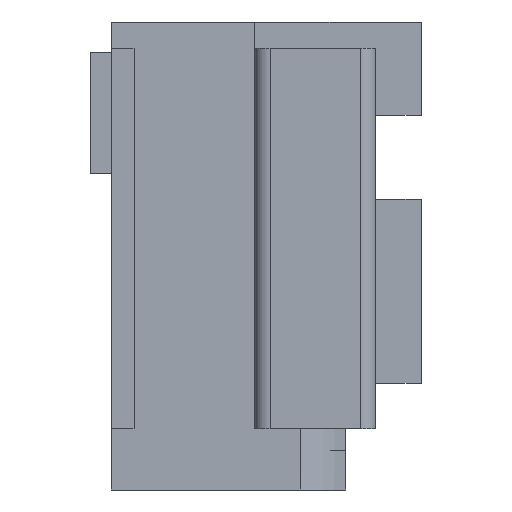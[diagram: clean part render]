
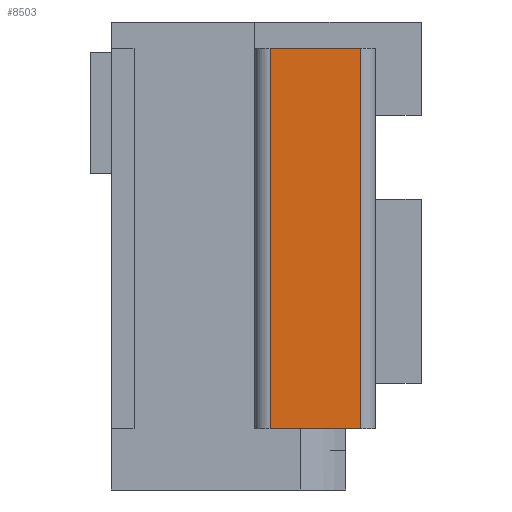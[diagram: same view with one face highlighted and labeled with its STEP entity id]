
A CAD part, left-side view. The second image highlights one B-rep face of the part: STEP entity #8503.
In plain terms, the highlighted planar face has unit normal (-1, 0, 0).
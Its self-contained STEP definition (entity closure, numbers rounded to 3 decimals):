
#4212 = PLANE('',#4213);
#4213 = AXIS2_PLACEMENT_3D('',#4214,#4215,#4216);
#4214 = CARTESIAN_POINT('',(-91.,98.29,175.3));
#4215 = DIRECTION('',(-0.,-0.,1.));
#4216 = DIRECTION('',(1.,0.,0.));
#7016 = VERTEX_POINT('',#7017);
#7017 = CARTESIAN_POINT('',(-107.5,100.29,175.3));
#7034 = CYLINDRICAL_SURFACE('',#7035,2.);
#7035 = AXIS2_PLACEMENT_3D('',#7036,#7037,#7038);
#7036 = CARTESIAN_POINT('',(-105.5,100.29,175.3));
#7037 = DIRECTION('',(-0.,-0.,1.));
#7038 = DIRECTION('',(-1.,-0.,-0.));
#7046 = EDGE_CURVE('',#7016,#7047,#7049,.T.);
#7047 = VERTEX_POINT('',#7048);
#7048 = CARTESIAN_POINT('',(-107.5,112.29,175.3));
#7049 = SURFACE_CURVE('',#7050,(#7054,#7061),.PCURVE_S1.);
#7050 = LINE('',#7051,#7052);
#7051 = CARTESIAN_POINT('',(-107.5,98.29,175.3));
#7052 = VECTOR('',#7053,1.);
#7053 = DIRECTION('',(-0.,1.,-0.));
#7054 = PCURVE('',#4212,#7055);
#7055 = DEFINITIONAL_REPRESENTATION('',(#7056),#7060);
#7056 = LINE('',#7057,#7058);
#7057 = CARTESIAN_POINT('',(-16.5,0.));
#7058 = VECTOR('',#7059,1.);
#7059 = DIRECTION('',(-0.,1.));
#7060 = ( GEOMETRIC_REPRESENTATION_CONTEXT(2) 
PARAMETRIC_REPRESENTATION_CONTEXT() REPRESENTATION_CONTEXT('2D SPACE',''
  ) );
#7061 = PCURVE('',#7062,#7067);
#7062 = PLANE('',#7063);
#7063 = AXIS2_PLACEMENT_3D('',#7064,#7065,#7066);
#7064 = CARTESIAN_POINT('',(-107.5,98.29,175.3));
#7065 = DIRECTION('',(-1.,-0.,-0.));
#7066 = DIRECTION('',(0.,0.,-1.));
#7067 = DEFINITIONAL_REPRESENTATION('',(#7068),#7072);
#7068 = LINE('',#7069,#7070);
#7069 = CARTESIAN_POINT('',(-0.,-0.));
#7070 = VECTOR('',#7071,1.);
#7071 = DIRECTION('',(-0.,-1.));
#7072 = ( GEOMETRIC_REPRESENTATION_CONTEXT(2) 
PARAMETRIC_REPRESENTATION_CONTEXT() REPRESENTATION_CONTEXT('2D SPACE',''
  ) );
#7095 = CYLINDRICAL_SURFACE('',#7096,2.);
#7096 = AXIS2_PLACEMENT_3D('',#7097,#7098,#7099);
#7097 = CARTESIAN_POINT('',(-105.5,112.29,175.3));
#7098 = DIRECTION('',(-0.,-0.,1.));
#7099 = DIRECTION('',(-1.,-0.,-0.));
#7464 = PLANE('',#7465);
#7465 = AXIS2_PLACEMENT_3D('',#7466,#7467,#7468);
#7466 = CARTESIAN_POINT('',(-91.,98.29,225.619));
#7467 = DIRECTION('',(-0.,-0.,1.));
#7468 = DIRECTION('',(1.,0.,0.));
#8399 = VERTEX_POINT('',#8400);
#8400 = CARTESIAN_POINT('',(-107.5,100.29,225.619));
#8422 = EDGE_CURVE('',#7016,#8399,#8423,.T.);
#8423 = SURFACE_CURVE('',#8424,(#8428,#8435),.PCURVE_S1.);
#8424 = LINE('',#8425,#8426);
#8425 = CARTESIAN_POINT('',(-107.5,100.29,175.3));
#8426 = VECTOR('',#8427,1.);
#8427 = DIRECTION('',(-0.,-0.,1.));
#8428 = PCURVE('',#7034,#8429);
#8429 = DEFINITIONAL_REPRESENTATION('',(#8430),#8434);
#8430 = LINE('',#8431,#8432);
#8431 = CARTESIAN_POINT('',(0.,0.));
#8432 = VECTOR('',#8433,1.);
#8433 = DIRECTION('',(0.,1.));
#8434 = ( GEOMETRIC_REPRESENTATION_CONTEXT(2) 
PARAMETRIC_REPRESENTATION_CONTEXT() REPRESENTATION_CONTEXT('2D SPACE',''
  ) );
#8435 = PCURVE('',#7062,#8436);
#8436 = DEFINITIONAL_REPRESENTATION('',(#8437),#8441);
#8437 = LINE('',#8438,#8439);
#8438 = CARTESIAN_POINT('',(-0.,-2.));
#8439 = VECTOR('',#8440,1.);
#8440 = DIRECTION('',(-1.,-0.));
#8441 = ( GEOMETRIC_REPRESENTATION_CONTEXT(2) 
PARAMETRIC_REPRESENTATION_CONTEXT() REPRESENTATION_CONTEXT('2D SPACE',''
  ) );
#8456 = VERTEX_POINT('',#8457);
#8457 = CARTESIAN_POINT('',(-107.5,112.29,225.619));
#8483 = EDGE_CURVE('',#7047,#8456,#8484,.T.);
#8484 = SURFACE_CURVE('',#8485,(#8489,#8496),.PCURVE_S1.);
#8485 = LINE('',#8486,#8487);
#8486 = CARTESIAN_POINT('',(-107.5,112.29,175.3));
#8487 = VECTOR('',#8488,1.);
#8488 = DIRECTION('',(-0.,-0.,1.));
#8489 = PCURVE('',#7095,#8490);
#8490 = DEFINITIONAL_REPRESENTATION('',(#8491),#8495);
#8491 = LINE('',#8492,#8493);
#8492 = CARTESIAN_POINT('',(-0.,0.));
#8493 = VECTOR('',#8494,1.);
#8494 = DIRECTION('',(-0.,1.));
#8495 = ( GEOMETRIC_REPRESENTATION_CONTEXT(2) 
PARAMETRIC_REPRESENTATION_CONTEXT() REPRESENTATION_CONTEXT('2D SPACE',''
  ) );
#8496 = PCURVE('',#7062,#8497);
#8497 = DEFINITIONAL_REPRESENTATION('',(#8498),#8502);
#8498 = LINE('',#8499,#8500);
#8499 = CARTESIAN_POINT('',(-0.,-14.));
#8500 = VECTOR('',#8501,1.);
#8501 = DIRECTION('',(-1.,-0.));
#8502 = ( GEOMETRIC_REPRESENTATION_CONTEXT(2) 
PARAMETRIC_REPRESENTATION_CONTEXT() REPRESENTATION_CONTEXT('2D SPACE',''
  ) );
#8503 = ADVANCED_FACE('',(#8504),#7062,.T.);
#8504 = FACE_BOUND('',#8505,.F.);
#8505 = EDGE_LOOP('',(#8506,#8527,#8528,#8529));
#8506 = ORIENTED_EDGE('',*,*,#8507,.F.);
#8507 = EDGE_CURVE('',#8399,#8456,#8508,.T.);
#8508 = SURFACE_CURVE('',#8509,(#8513,#8520),.PCURVE_S1.);
#8509 = LINE('',#8510,#8511);
#8510 = CARTESIAN_POINT('',(-107.5,98.29,225.619));
#8511 = VECTOR('',#8512,1.);
#8512 = DIRECTION('',(-0.,1.,-0.));
#8513 = PCURVE('',#7062,#8514);
#8514 = DEFINITIONAL_REPRESENTATION('',(#8515),#8519);
#8515 = LINE('',#8516,#8517);
#8516 = CARTESIAN_POINT('',(-50.319,-0.));
#8517 = VECTOR('',#8518,1.);
#8518 = DIRECTION('',(-0.,-1.));
#8519 = ( GEOMETRIC_REPRESENTATION_CONTEXT(2) 
PARAMETRIC_REPRESENTATION_CONTEXT() REPRESENTATION_CONTEXT('2D SPACE',''
  ) );
#8520 = PCURVE('',#7464,#8521);
#8521 = DEFINITIONAL_REPRESENTATION('',(#8522),#8526);
#8522 = LINE('',#8523,#8524);
#8523 = CARTESIAN_POINT('',(-16.5,0.));
#8524 = VECTOR('',#8525,1.);
#8525 = DIRECTION('',(-0.,1.));
#8526 = ( GEOMETRIC_REPRESENTATION_CONTEXT(2) 
PARAMETRIC_REPRESENTATION_CONTEXT() REPRESENTATION_CONTEXT('2D SPACE',''
  ) );
#8527 = ORIENTED_EDGE('',*,*,#8422,.F.);
#8528 = ORIENTED_EDGE('',*,*,#7046,.T.);
#8529 = ORIENTED_EDGE('',*,*,#8483,.T.);
